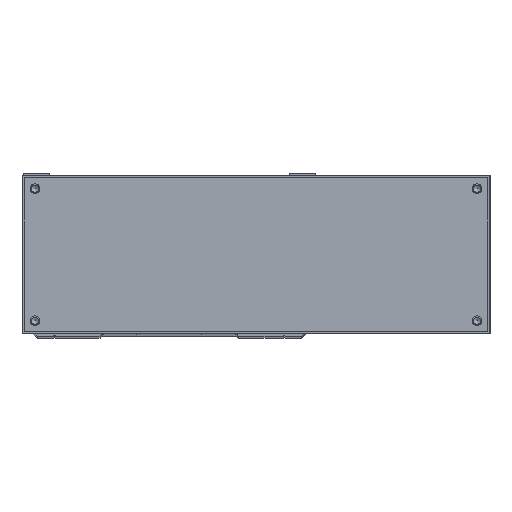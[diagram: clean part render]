
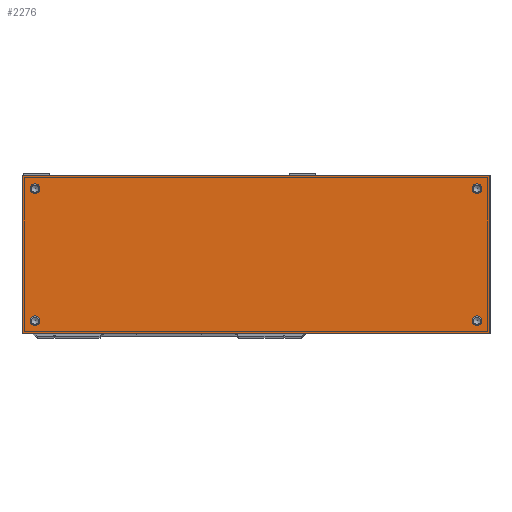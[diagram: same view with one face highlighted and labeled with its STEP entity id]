
A CAD part, top view. The second image highlights one B-rep face of the part: STEP entity #2276.
In plain terms, the highlighted planar face has unit normal (0, 0, 1).
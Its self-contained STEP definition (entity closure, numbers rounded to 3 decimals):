
#268=FACE_BOUND('',#4108,.T.);
#269=FACE_BOUND('',#4109,.T.);
#270=FACE_BOUND('',#4110,.T.);
#271=FACE_BOUND('',#4111,.T.);
#272=FACE_BOUND('',#4112,.T.);
#1015=PLANE('',#15274);
#1530=CIRCLE('',#15270,2.25);
#1531=CIRCLE('',#15271,2.25);
#1532=CIRCLE('',#15272,2.25);
#1533=CIRCLE('',#15273,2.25);
#2276=ADVANCED_FACE('8',(#268,#269,#270,#271,#272),#1015,.F.);
#4108=EDGE_LOOP('',(#7831));
#4109=EDGE_LOOP('',(#7832));
#4110=EDGE_LOOP('',(#7833));
#4111=EDGE_LOOP('',(#7834));
#4112=EDGE_LOOP('',(#7835,#7836,#7837,#7838));
#5457=LINE('',#22480,#6508);
#5458=LINE('',#22483,#6509);
#5459=LINE('',#22485,#6510);
#5460=LINE('',#22487,#6511);
#6508=VECTOR('',#17359,1.);
#6509=VECTOR('',#17360,1.);
#6510=VECTOR('',#17361,1.);
#6511=VECTOR('',#17362,1.);
#7831=ORIENTED_EDGE('',*,*,#13235,.F.);
#7832=ORIENTED_EDGE('',*,*,#13236,.F.);
#7833=ORIENTED_EDGE('',*,*,#13237,.F.);
#7834=ORIENTED_EDGE('',*,*,#13238,.F.);
#7835=ORIENTED_EDGE('',*,*,#13239,.F.);
#7836=ORIENTED_EDGE('',*,*,#13240,.F.);
#7837=ORIENTED_EDGE('',*,*,#13241,.F.);
#7838=ORIENTED_EDGE('',*,*,#13242,.F.);
#11715=VERTEX_POINT('',#22473);
#11716=VERTEX_POINT('',#22475);
#11717=VERTEX_POINT('',#22477);
#11718=VERTEX_POINT('',#22479);
#11719=VERTEX_POINT('',#22481);
#11720=VERTEX_POINT('',#22482);
#11721=VERTEX_POINT('',#22484);
#11722=VERTEX_POINT('',#22486);
#13235=EDGE_CURVE('',#11715,#11715,#1530,.T.);
#13236=EDGE_CURVE('',#11716,#11716,#1531,.T.);
#13237=EDGE_CURVE('',#11717,#11717,#1532,.T.);
#13238=EDGE_CURVE('',#11718,#11718,#1533,.T.);
#13239=EDGE_CURVE('',#11719,#11720,#5457,.T.);
#13240=EDGE_CURVE('',#11721,#11719,#5458,.T.);
#13241=EDGE_CURVE('',#11722,#11721,#5459,.T.);
#13242=EDGE_CURVE('',#11720,#11722,#5460,.T.);
#15270=AXIS2_PLACEMENT_3D('',#22472,#17351,#17352);
#15271=AXIS2_PLACEMENT_3D('',#22474,#17353,#17354);
#15272=AXIS2_PLACEMENT_3D('',#22476,#17355,#17356);
#15273=AXIS2_PLACEMENT_3D('',#22478,#17357,#17358);
#15274=AXIS2_PLACEMENT_3D('',#22488,#17363,#17364);
#17351=DIRECTION('',(0.,0.,1.));
#17352=DIRECTION('',(-1.,0.,0.));
#17353=DIRECTION('',(0.,0.,1.));
#17354=DIRECTION('',(1.,0.,0.));
#17355=DIRECTION('',(0.,0.,1.));
#17356=DIRECTION('',(-1.,0.,0.));
#17357=DIRECTION('',(0.,0.,1.));
#17358=DIRECTION('',(1.,0.,0.));
#17359=DIRECTION('',(0.,-1.,0.));
#17360=DIRECTION('',(1.,0.,0.));
#17361=DIRECTION('',(0.,1.,0.));
#17362=DIRECTION('',(-1.,0.,0.));
#17363=DIRECTION('',(0.,0.,-1.));
#17364=DIRECTION('',(-1.,0.,0.));
#22472=CARTESIAN_POINT('',(-62.,6.,193.));
#22473=CARTESIAN_POINT('',(-64.25,6.,193.));
#22474=CARTESIAN_POINT('',(142.,6.,193.));
#22475=CARTESIAN_POINT('',(144.25,6.,193.));
#22476=CARTESIAN_POINT('',(142.,67.,193.));
#22477=CARTESIAN_POINT('',(139.75,67.,193.));
#22478=CARTESIAN_POINT('',(-62.,67.,193.));
#22479=CARTESIAN_POINT('',(-59.75,67.,193.));
#22480=CARTESIAN_POINT('',(148.,73.,193.));
#22481=CARTESIAN_POINT('',(148.,73.,193.));
#22482=CARTESIAN_POINT('',(148.,0.,193.));
#22483=CARTESIAN_POINT('',(148.,73.,193.));
#22484=CARTESIAN_POINT('',(-68.,73.,193.));
#22485=CARTESIAN_POINT('',(-68.,73.,193.));
#22486=CARTESIAN_POINT('',(-68.,0.,193.));
#22487=CARTESIAN_POINT('',(148.,0.,193.));
#22488=CARTESIAN_POINT('',(40.,36.5,193.));
